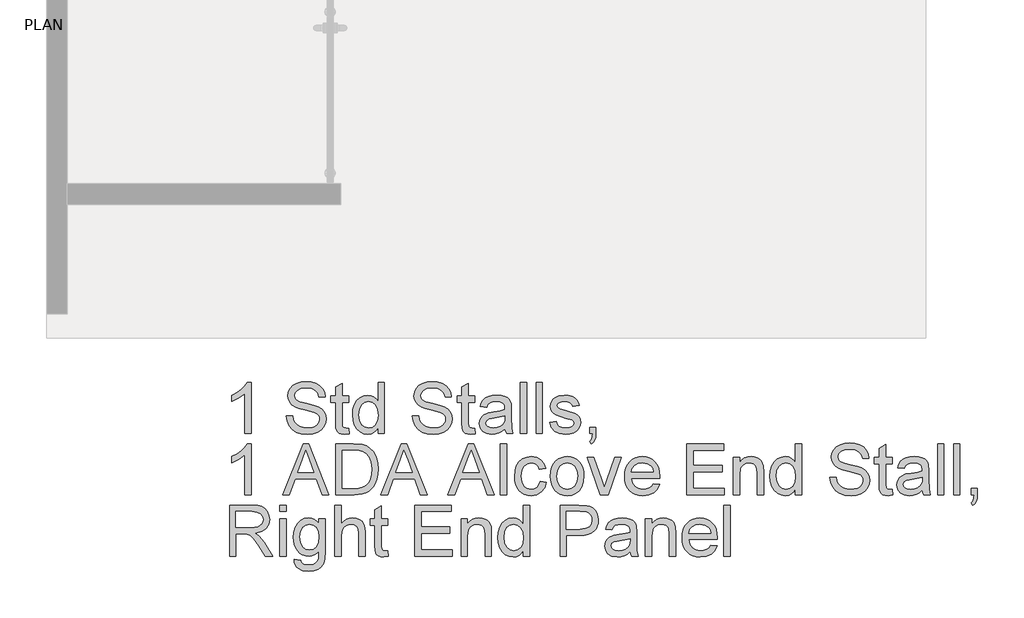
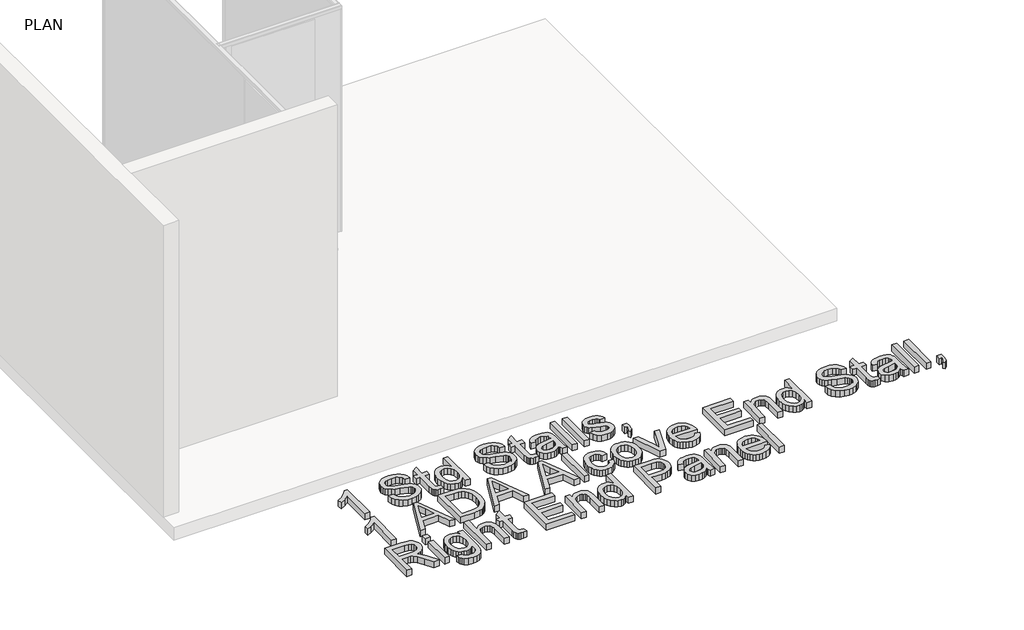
# One storey, part 16 of 21: 1 proxy.
"""IFC4 building model written with IfcOpenShell, lengths in millimetres."""

from ifc_helpers import new_model, si_unit, origin, origin_with_axes, place, context, project, spatial, polyline, outline, extrude, element, save

model = new_model("IFC4")

# Units and contexts
model_context = context("Model", 3, world=origin())
ifc_project = project(units=[si_unit("LENGTHUNIT", "METRE", prefix="MILLI")], contexts=[model_context])

# Site, building, storey
site = spatial("IfcSite", under=ifc_project)
building = spatial("IfcBuilding", under=site)
storey = spatial("IfcBuildingStorey", under=building, Name="PLAN", Elevation=0.0)

# Proxy
placement = place(None, origin())
element("IfcBuildingElementProxy", 1, Name="12\" Arial", ObjectType="12\" Arial", at=placement, inside=storey, context=model_context, shape_type="SweptSolid", body=[
    extrude(outline(polyline([(-21870.6570007, 20781.8395639), (-21908.7278874, 20781.8395639), (-21908.7278874, 21019.1877485), (-21944.7911298, 20993.4973357), (-21984.869661, 20974.2759993), (-21984.869661, 21010.2648844), (-21954.9687716, 21026.5305221), (-21929.0645818, 21045.8819836), (-21908.6442356, 21066.4603389), (-21895.1948769, 21086.4066579), (-21870.6570007, 21086.4066579), (-21870.6570007, 20781.8395639)])), origin_with_axes(), (0.0, 0.0, 1.0), 50.8),
    extrude(outline(polyline([(-21661.2671235, 20886.5345025), (-21623.1962368, 20886.5345025), (-21618.8277512, 20865.4077628), (-21610.9272986, 20848.4264371), (-21598.6025926, 20834.9491945), (-21580.9613468, 20824.3347041), (-21559.3977586, 20817.4473684), (-21535.3060255, 20815.1515898), (-21514.095634, 20816.8896894), (-21495.5249232, 20822.1039881), (-21480.4768847, 20830.3576373), (-21469.8345103, 20841.2137886), (-21463.5048536, 20853.6779144), (-21461.394968, 20866.7554871), (-21462.9750585, 20879.4984523), (-21467.7153301, 20890.5126127), (-21477.3445876, 20899.9095039), (-21493.5916359, 20907.8006619), (-21549.0249291, 20922.3374946), (-21585.4134842, 20931.9574574), (-21608.6965826, 20941.1126878), (-21627.6483741, 20953.9207156), (-21641.0791435, 20969.4427812), (-21649.0818373, 20987.3442773), (-21651.7494018, 21007.2905964), (-21648.449801, 21029.588462), (-21638.5509987, 21050.3805942), (-21622.313245, 21068.0032508), (-21599.9967901, 21080.7926893), (-21573.2096086, 21088.5723114), (-21543.5596748, 21091.1655188), (-21511.4373641, 21088.451481), (-21483.3303422, 21080.3093675), (-21460.2424314, 21066.9064821), (-21443.1774539, 21048.4101284), (-21432.3770705, 21025.9728431), (-21428.0829421, 21000.7471627), (-21466.1538289, 21000.7471627), (-21473.1434057, 21023.4632876), (-21487.7174171, 21039.8590503), (-21510.4893098, 21049.7857366), (-21542.0725308, 21053.094632), (-21574.3993238, 21049.8229152), (-21596.5763589, 21040.0077647), (-21609.402976, 21025.5638785), (-21613.6785151, 21008.4059544), (-21610.6484591, 20993.7761752), (-21601.5582914, 20982.0091482), (-21580.0690604, 20971.4876043), (-21539.3956716, 20960.7429888), (-21497.4210318, 20950.537463), (-21472.0280477, 20941.6331882), (-21450.3250398, 20927.8213382), (-21435.1840548, 20910.7749499), (-21426.2890747, 20890.6799164), (-21423.3240813, 20867.7221307), (-21426.7352179, 20844.2531392), (-21436.9686276, 20822.1783453), (-21453.6060513, 20803.1800805), (-21476.2292296, 20788.9406765), (-21503.4346704, 20780.0456964), (-21533.8188815, 20777.080703), (-21571.1183123, 20780.2780627), (-21601.8185416, 20789.8701416), (-21626.2727659, 20805.8941183), (-21644.8341822, 20828.3871715), (-21656.7499236, 20855.7878), (-21661.2671235, 20886.5345025)])), origin_with_axes(), (0.0, 0.0, 1.0), 50.8),
    extrude(outline(polyline([(-21290.0759776, 20813.5900886), (-21285.3171168, 20780.7242059), (-21313.7959246, 20777.080703), (-21332.0692067, 20778.6607935), (-21345.6951637, 20783.4010651), (-21355.3244212, 20790.7066601), (-21361.6076047, 20799.9827208), (-21365.0652145, 20815.9137511), (-21366.2177511, 20843.1842545), (-21366.2177511, 20967.4351368), (-21394.7709162, 20967.4351368), (-21394.7709162, 21005.5060236), (-21366.2177511, 21005.5060236), (-21366.2177511, 21059.8611373), (-21328.1468644, 21082.2426547), (-21328.1468644, 21005.5060236), (-21290.0759776, 21005.5060236), (-21290.0759776, 20967.4351368), (-21328.1468644, 20967.4351368), (-21328.1468644, 20844.2996125), (-21326.13922, 20824.6693115), (-21319.6329649, 20817.7169132), (-21306.6576334, 20815.1515898), (-21290.0759776, 20813.5900886)])), origin_with_axes(), (0.0, 0.0, 1.0), 50.8),
    extrude(outline(polyline([(-21113.9981264, 20781.8395639), (-21113.9981264, 20817.7540918), (-21125.38872, 20799.9594842), (-21139.1866281, 20787.2490502), (-21155.3918505, 20779.6227898), (-21174.0043873, 20777.080703), (-21198.6166208, 20780.7613845), (-21221.1468526, 20791.8034288), (-21240.2194746, 20809.43538), (-21254.4588785, 20832.8857822), (-21263.3259747, 20861.206581), (-21266.2816734, 20893.4497221), (-21263.5583409, 20925.2931933), (-21255.3883435, 20954.0508407), (-21241.7809758, 20978.0868058), (-21222.7455324, 20995.7652303), (-21199.7226841, 21006.6399709), (-21174.1531017, 21010.2648844), (-21155.526623, 21007.6716771), (-21139.056503, 20999.8920549), (-21125.0959386, 20987.9670189), (-21113.9981264, 20972.9375697), (-21113.9981264, 21086.4066579), (-21075.9272396, 21086.4066579), (-21075.9272396, 20781.8395639), (-21113.9981264, 20781.8395639)]), holes=[polyline([(-21228.2107866, 20893.5984365), (-21223.9166583, 20859.161758), (-21211.0342733, 20834.670355), (-21192.314848, 20820.0312811), (-21170.5095989, 20815.1515898), (-21148.7136444, 20819.8082095), (-21130.4682463, 20833.7780686), (-21118.1156564, 20857.3214172), (-21113.9981264, 20890.6985057), (-21118.1900136, 20927.1893019), (-21130.7656751, 20952.4893395), (-21149.4758057, 20967.2678331), (-21172.0711001, 20972.1939977), (-21194.0994208, 20967.4630208), (-21212.1496313, 20953.2700901), (-21224.1954978, 20928.8902229), (-21228.2107866, 20893.5984365)])]), origin_with_axes(), (0.0, 0.0, 1.0), 50.8),
    extrude(outline(polyline([(-20909.36711, 20886.5345025), (-20871.2962233, 20886.5345025), (-20866.9277377, 20865.4077628), (-20859.0272852, 20848.4264371), (-20846.7025791, 20834.9491945), (-20829.0613333, 20824.3347041), (-20807.4977451, 20817.4473684), (-20783.406012, 20815.1515898), (-20762.1956205, 20816.8896894), (-20743.6249097, 20822.1039881), (-20728.5768712, 20830.3576373), (-20717.9344968, 20841.2137886), (-20711.6048401, 20853.6779144), (-20709.4949546, 20866.7554871), (-20711.0750451, 20879.4984523), (-20715.8153166, 20890.5126127), (-20725.4445741, 20899.9095039), (-20741.6916225, 20907.8006619), (-20797.1249156, 20922.3374946), (-20833.5134707, 20931.9574574), (-20856.7965691, 20941.1126878), (-20875.7483607, 20953.9207156), (-20889.17913, 20969.4427812), (-20897.1818238, 20987.3442773), (-20899.8493883, 21007.2905964), (-20896.5497876, 21029.588462), (-20886.6509852, 21050.3805942), (-20870.4132315, 21068.0032508), (-20848.0967767, 21080.7926893), (-20821.3095951, 21088.5723114), (-20791.6596613, 21091.1655188), (-20759.5373506, 21088.451481), (-20731.4303288, 21080.3093675), (-20708.3424179, 21066.9064821), (-20691.2774404, 21048.4101284), (-20680.477057, 21025.9728431), (-20676.1829286, 21000.7471627), (-20714.2538154, 21000.7471627), (-20721.2433923, 21023.4632876), (-20735.8174036, 21039.8590503), (-20758.5892963, 21049.7857366), (-20790.1725173, 21053.094632), (-20822.4993103, 21049.8229152), (-20844.6763454, 21040.0077647), (-20857.5029625, 21025.5638785), (-20861.7785016, 21008.4059544), (-20858.7484457, 20993.7761752), (-20849.6582779, 20982.0091482), (-20828.1690469, 20971.4876043), (-20787.4956581, 20960.7429888), (-20745.5210183, 20950.537463), (-20720.1280343, 20941.6331882), (-20698.4250263, 20927.8213382), (-20683.2840413, 20910.7749499), (-20674.3890612, 20890.6799164), (-20671.4240678, 20867.7221307), (-20674.8352044, 20844.2531392), (-20685.0686141, 20822.1783453), (-20701.7060378, 20803.1800805), (-20724.3292161, 20788.9406765), (-20751.5346569, 20780.0456964), (-20781.918868, 20777.080703), (-20819.2182988, 20780.2780627), (-20849.9185281, 20789.8701416), (-20874.3727525, 20805.8941183), (-20892.9341687, 20828.3871715), (-20904.8499101, 20855.7878), (-20909.36711, 20886.5345025)])), origin_with_axes(), (0.0, 0.0, 1.0), 50.8),
    extrude(outline(polyline([(-20538.1759641, 20813.5900886), (-20533.4171033, 20780.7242059), (-20561.8959112, 20777.080703), (-20580.1691932, 20778.6607935), (-20593.7951503, 20783.4010651), (-20603.4244078, 20790.7066601), (-20609.7075912, 20799.9827208), (-20613.165201, 20815.9137511), (-20614.3177377, 20843.1842545), (-20614.3177377, 20967.4351368), (-20642.8709027, 20967.4351368), (-20642.8709027, 21005.5060236), (-20614.3177377, 21005.5060236), (-20614.3177377, 21059.8611373), (-20576.2468509, 21082.2426547), (-20576.2468509, 21005.5060236), (-20538.1759641, 21005.5060236), (-20538.1759641, 20967.4351368), (-20576.2468509, 20967.4351368), (-20576.2468509, 20844.2996125), (-20574.2392065, 20824.6693115), (-20567.7329514, 20817.7169132), (-20554.7576199, 20815.1515898), (-20538.1759641, 20813.5900886)])), origin_with_axes(), (0.0, 0.0, 1.0), 50.8),
    extrude(outline(polyline([(-20357.339252, 20810.3927289), (-20375.5288823, 20794.7963061), (-20394.2576022, 20784.5907803), (-20413.9529657, 20778.9582224), (-20435.0425268, 20777.080703), (-20466.858114, 20781.597903), (-20490.3271055, 20795.1495028), (-20504.7988757, 20815.7278581), (-20509.6227991, 20841.3253244), (-20507.8010477, 20857.1076403), (-20502.3357934, 20871.4399907), (-20493.9055458, 20883.7089288), (-20483.1888142, 20893.3010077), (-20456.5317578, 20905.7930174), (-20423.5915179, 20911.5185219), (-20384.6655233, 20917.5414552), (-20357.5623236, 20924.6053892), (-20357.339252, 20933.0821101), (-20359.9603434, 20950.0727305), (-20367.8236173, 20961.189132), (-20385.4090953, 20969.4427812), (-20409.9097929, 20972.1939977), (-20432.5887391, 20970.3629516), (-20448.4268229, 20964.8698134), (-20459.2272063, 20954.7107609), (-20466.7930515, 20938.8819718), (-20504.8639382, 20943.6408326), (-20498.255442, 20964.4608488), (-20488.3938183, 20980.819433), (-20474.3588966, 20993.330032), (-20455.2305068, 21002.6060928), (-20431.8358725, 21008.3501865), (-20405.0022177, 21010.2648844), (-20379.2653316, 21008.5732581), (-20358.8635747, 21003.4983792), (-20343.4809288, 20995.8674714), (-20332.8013758, 20986.5077588), (-20325.7188524, 20974.9359194), (-20321.1272953, 20960.6686316), (-20319.2683653, 20927.3566056), (-20319.2683653, 20879.9910688), (-20317.3350781, 20813.8503388), (-20309.7506436, 20781.8395639), (-20347.8215303, 20781.8395639), (-20353.9188208, 20795.0751456), (-20357.339252, 20810.3927289)]), holes=[polyline([(-20357.339252, 20886.5345025), (-20418.7582998, 20874.860422), (-20451.5126467, 20868.6887743), (-20466.3469083, 20858.6505522), (-20471.5519123, 20844.0021837), (-20468.717044, 20832.6812999), (-20460.2124392, 20823.4052391), (-20446.2239908, 20817.2150021), (-20426.9375919, 20815.1515898), (-20406.4893617, 20817.4287791), (-20388.4205619, 20824.2603469), (-20373.7721934, 20834.3264529), (-20363.5852569, 20846.3072569), (-20359.068057, 20858.6505522), (-20357.5623236, 20875.7527084), (-20357.339252, 20886.5345025)])]), origin_with_axes(), (0.0, 0.0, 1.0), 50.8),
    extrude(outline(polyline([(-20266.920896, 20781.8395639), (-20266.920896, 21086.4066579), (-20228.8500092, 21086.4066579), (-20228.8500092, 20781.8395639), (-20266.920896, 20781.8395639)])), origin_with_axes(), (0.0, 0.0, 1.0), 50.8),
    extrude(outline(polyline([(-20171.7436791, 20781.8395639), (-20171.7436791, 21086.4066579), (-20133.6727923, 21086.4066579), (-20133.6727923, 20781.8395639), (-20171.7436791, 20781.8395639)])), origin_with_axes(), (0.0, 0.0, 1.0), 50.8),
    extrude(outline(polyline([(-20090.8430447, 20848.4636157), (-20052.772158, 20853.2224765), (-20046.767814, 20836.9382496), (-20035.1495014, 20824.9667403), (-20017.8428629, 20817.6053774), (-19994.7735414, 20815.1515898), (-19971.9830594, 20817.4008951), (-19955.9590827, 20824.1488111), (-19946.4785396, 20833.926783), (-19943.3183585, 20845.2662561), (-19946.4971289, 20854.9698708), (-19956.0334399, 20862.3684122), (-19995.2196846, 20873.2245635), (-20052.5490864, 20891.8510423), (-20067.0580352, 20901.210755), (-20077.5702844, 20913.6005235), (-20083.955709, 20928.2303028), (-20086.0841839, 20944.3100474), (-20084.3739683, 20959.0606571), (-20079.2433214, 20972.6773195), (-20071.1569758, 20984.6209448), (-20060.579664, 20994.3524435), (-20036.3763952, 21005.6175594), (-20003.6220483, 21010.2648844), (-19978.8425112, 21008.3966598), (-19957.2975123, 21002.7919858), (-19939.9722845, 20993.9992468), (-19927.8520608, 20982.5668272), (-19919.8214831, 20967.6489138), (-19914.7651935, 20948.3996934), (-19952.8360802, 20943.6408326), (-19957.6414143, 20955.6216366), (-19967.1498414, 20964.6467418), (-19981.4543078, 20970.3071837), (-20000.6477603, 20972.1939977), (-20022.5087773, 20970.3908356), (-20037.0827886, 20964.9813492), (-20045.28067, 20957.1738431), (-20048.0132971, 20948.1766218), (-20043.4775079, 20937.0973989), (-20029.2752825, 20928.6950353), (-19996.483757, 20920.5901004), (-19940.6043207, 20902.670015), (-19925.8444164, 20894.1003476), (-19914.6536577, 20882.3704992), (-19907.5990183, 20867.4432912), (-19905.2474718, 20849.2815449), (-19908.0079829, 20830.5063517), (-19916.2895161, 20812.8465166), (-19929.7760534, 20797.6869423), (-19948.1515766, 20786.4125317), (-19970.347201, 20779.4136602), (-19995.2940418, 20777.080703), (-20033.6809467, 20781.5793137), (-20061.6950221, 20795.0751456), (-20080.395858, 20817.4194844), (-20090.8430447, 20848.4636157)])), origin_with_axes(), (0.0, 0.0, 1.0), 50.8),
    extrude(outline(polyline([(-19852.9000025, 20781.8395639), (-19852.9000025, 20819.9104506), (-19814.8291157, 20819.9104506), (-19814.8291157, 20781.8395639), (-19816.5393313, 20760.0621987), (-19821.6699782, 20742.9135693), (-19830.5184851, 20729.7616394), (-19843.3822808, 20719.9743729), (-19852.9000025, 20734.2509554), (-19844.6463532, 20741.1475858), (-19838.9208488, 20750.6838968), (-19833.9389163, 20781.8395639), (-19852.9000025, 20781.8395639)])), origin_with_axes(), (0.0, 0.0, 1.0), 50.8),
    extrude(outline(polyline([(-21870.6570007, 20415.7868995), (-21908.7278874, 20415.7868995), (-21908.7278874, 20653.1350842), (-21944.7911298, 20627.4446713), (-21984.869661, 20608.223335), (-21984.869661, 20644.2122201), (-21954.9687716, 20660.4778577), (-21929.0645818, 20679.8293192), (-21908.6442356, 20700.4076745), (-21895.1948769, 20720.3539936), (-21870.6570007, 20720.3539936), (-21870.6570007, 20415.7868995)])), origin_with_axes(), (0.0, 0.0, 1.0), 50.8),
    extrude(outline(polyline([(-21682.4589257, 20415.7868995), (-21560.8849026, 20720.3539936), (-21528.4651631, 20720.3539936), (-21406.8911399, 20415.7868995), (-21447.1183855, 20415.7868995), (-21481.9919126, 20510.9641164), (-21607.4325102, 20510.9641164), (-21642.2316801, 20415.7868995), (-21682.4589257, 20415.7868995)]), holes=[polyline([(-21593.4533565, 20549.0350032), (-21495.8967092, 20549.0350032), (-21523.3345162, 20623.9127043), (-21544.6750328, 20682.2831068), (-21563.636119, 20630.456138), (-21593.4533565, 20549.0350032)])]), origin_with_axes(), (0.0, 0.0, 1.0), 50.8),
    extrude(outline(polyline([(-21366.2177511, 20415.7868995), (-21366.2177511, 20720.3539936), (-21261.1510265, 20720.3539936), (-21206.7959128, 20715.9669188), (-21182.5182868, 20707.5087872), (-21162.032878, 20694.180259), (-21140.9712009, 20670.9808123), (-21125.9696357, 20642.1302185), (-21116.9910037, 20608.1861564), (-21113.9981264, 20569.706305), (-21116.0243601, 20537.0170206), (-21122.1030612, 20508.2500786), (-21131.3605327, 20483.7586756), (-21142.9230774, 20463.8960084), (-21156.2330164, 20448.2159337), (-21170.7326705, 20436.2723083), (-21187.3793888, 20427.4145068), (-21207.1305202, 20420.9919036), (-21256.0947369, 20415.7868995), (-21366.2177511, 20415.7868995)]), holes=[polyline([(-21328.1468644, 20453.8577863), (-21260.7792405, 20453.8577863), (-21232.9138796, 20455.2333945), (-21211.7778453, 20459.3602191), (-21195.8282257, 20465.9965993), (-21183.522109, 20474.9008741), (-21170.2958219, 20491.3802887), (-21160.359841, 20512.7115107), (-21154.1417201, 20538.9874864), (-21152.0690131, 20570.3011626), (-21156.1307752, 20611.7924806), (-21168.3160615, 20642.4276473), (-21186.3197987, 20663.4707351), (-21207.8369136, 20676.1858164), (-21229.7351093, 20680.7587842), (-21261.8202414, 20682.2831068), (-21328.1468644, 20682.2831068), (-21328.1468644, 20453.8577863)])]), origin_with_axes(), (0.0, 0.0, 1.0), 50.8),
    extrude(outline(polyline([(-21097.1190418, 20415.7868995), (-20975.5450187, 20720.3539936), (-20943.1252792, 20720.3539936), (-20821.551256, 20415.7868995), (-20861.7785016, 20415.7868995), (-20896.6520287, 20510.9641164), (-21022.0926263, 20510.9641164), (-21056.8917962, 20415.7868995), (-21097.1190418, 20415.7868995)]), holes=[polyline([(-21008.1134726, 20549.0350032), (-20910.5568252, 20549.0350032), (-20937.9946323, 20623.9127043), (-20959.3351489, 20682.2831068), (-20978.2962351, 20630.456138), (-21008.1134726, 20549.0350032)])]), origin_with_axes(), (0.0, 0.0, 1.0), 50.8),
    extrude(outline(polyline([(-20697.3747308, 20415.7868995), (-20575.8007077, 20720.3539936), (-20543.3809682, 20720.3539936), (-20421.806945, 20415.7868995), (-20462.0341906, 20415.7868995), (-20496.9077178, 20510.9641164), (-20622.3483153, 20510.9641164), (-20657.1474853, 20415.7868995), (-20697.3747308, 20415.7868995)]), holes=[polyline([(-20608.3691616, 20549.0350032), (-20510.8125143, 20549.0350032), (-20538.2503213, 20623.9127043), (-20559.5908379, 20682.2831068), (-20578.5519241, 20630.456138), (-20608.3691616, 20549.0350032)])]), origin_with_axes(), (0.0, 0.0, 1.0), 50.8),
    extrude(outline(polyline([(-20385.8924171, 20415.7868995), (-20385.8924171, 20720.3539936), (-20347.8215303, 20720.3539936), (-20347.8215303, 20415.7868995), (-20385.8924171, 20415.7868995)])), origin_with_axes(), (0.0, 0.0, 1.0), 50.8),
    extrude(outline(polyline([(-20147.9493749, 20496.6875339), (-20109.8784881, 20491.9286731), (-20120.4929785, 20458.0682628), (-20140.4392976, 20432.4800911), (-20167.8399261, 20416.3910518), (-20200.8173446, 20411.0280387), (-20222.1694795, 20412.898587), (-20241.314135, 20418.510232), (-20258.2513111, 20427.8629737), (-20272.9810078, 20440.956812), (-20284.9037202, 20457.5454387), (-20293.4199434, 20477.3825457), (-20298.5296773, 20500.4681328), (-20300.2329219, 20526.8022002), (-20297.3236964, 20560.6811998), (-20288.59602, 20590.0429994), (-20273.9104729, 20613.7536518), (-20253.1276353, 20630.6792096), (-20228.2644463, 20640.8289675), (-20201.337845, 20644.2122201), (-20169.169061, 20639.564895), (-20143.4507642, 20625.6229199), (-20125.0008838, 20603.1298667), (-20114.637349, 20572.8293074), (-20152.7082357, 20568.0704466), (-20159.6141607, 20584.6799863), (-20170.3680709, 20596.586433), (-20184.3751086, 20603.7526083), (-20201.0404162, 20606.1413333), (-20225.6433549, 20601.4382404), (-20245.1714148, 20587.3289616), (-20257.91438, 20563.0513355), (-20262.1620351, 20527.843201), (-20258.0073266, 20492.1610393), (-20245.5432008, 20467.7997614), (-20226.3683377, 20453.7741344), (-20202.081417, 20449.0989255), (-20182.3674641, 20452.0174456), (-20166.2040676, 20460.773006), (-20154.4463353, 20475.5886782), (-20147.9493749, 20496.6875339)])), origin_with_axes(), (0.0, 0.0, 1.0), 50.8),
    extrude(outline(polyline([(-20086.0841839, 20527.6201294), (-20084.0254189, 20556.5869064), (-20077.8491239, 20581.5476892), (-20067.5552989, 20602.5024778), (-20053.143944, 20619.4512723), (-20038.6349952, 20630.2841869), (-20022.6203131, 20638.0219831), (-20005.0998977, 20642.6646608), (-19986.0737489, 20644.2122201), (-19965.0701634, 20642.3277298), (-19946.0788696, 20636.6742589), (-19929.0998676, 20627.2518073), (-19914.1331573, 20614.0603752), (-19901.9176634, 20597.5461057), (-19893.1923106, 20578.1551419), (-19887.957099, 20555.887484), (-19886.2120284, 20530.7431318), (-19889.2978522, 20492.2818698), (-19898.5553237, 20463.003722), (-19913.714898, 20441.0776424), (-19934.5070303, 20424.672585), (-19959.2029155, 20414.4391753), (-19986.0737489, 20411.0280387), (-20007.3840579, 20412.905558), (-20026.5519501, 20418.538116), (-20043.5774254, 20427.9257126), (-20058.4604838, 20441.0683478), (-20070.5458526, 20457.74295), (-20079.1782589, 20477.7264477), (-20084.3577026, 20501.0188408), (-20086.0841839, 20527.6201294)]), holes=[polyline([(-20048.0132971, 20527.6944866), (-20043.607633, 20493.2392187), (-20030.3906406, 20468.6920478), (-20010.5000894, 20453.997206), (-19986.0737489, 20449.0989255), (-19961.7589443, 20454.02509), (-19941.9055717, 20468.8035836), (-19928.6885793, 20493.6760673), (-19924.2829152, 20528.8842018), (-19928.7164632, 20562.3356475), (-19942.0171075, 20586.5482109), (-19961.8983641, 20601.2430527), (-19986.0737489, 20606.1413333), (-20010.5000894, 20601.261642), (-20030.3906406, 20586.6225681), (-20043.607633, 20562.1311652), (-20048.0132971, 20527.6944866)])]), origin_with_axes(), (0.0, 0.0, 1.0), 50.8),
    extrude(outline(polyline([(-19788.5066667, 20415.7868995), (-19867.176585, 20639.4533592), (-19826.8749822, 20639.4533592), (-19779.2120166, 20505.4616836), (-19764.8610769, 20460.40122), (-19750.8075659, 20502.9335388), (-19702.8471715, 20639.4533592), (-19662.5455687, 20639.4533592), (-19740.2488434, 20415.7868995), (-19788.5066667, 20415.7868995)])), origin_with_axes(), (0.0, 0.0, 1.0), 50.8),
    extrude(outline(polyline([(-19472.6372781, 20482.4109514), (-19435.3099634, 20477.6520905), (-19448.759322, 20449.5264794), (-19470.2206691, 20428.5019809), (-19499.2106827, 20415.3965242), (-19535.2460411, 20411.0280387), (-19558.8683943, 20412.912529), (-19579.9161294, 20418.5659999), (-19598.3892465, 20427.9884514), (-19614.2877454, 20441.1798836), (-19627.0725366, 20457.7731576), (-19636.2045303, 20477.401135), (-19641.6837266, 20500.0638155), (-19643.5101253, 20525.7611994), (-19641.6651373, 20552.3299566), (-19636.1301731, 20575.7478275), (-19626.9052329, 20596.0148121), (-19613.9903166, 20613.1309102), (-19598.1336436, 20626.7289833), (-19580.0834331, 20636.4418926), (-19559.8396852, 20642.2696382), (-19537.4023999, 20644.2122201), (-19515.6877736, 20642.2742855), (-19496.0505017, 20636.4604819), (-19478.490584, 20626.7708092), (-19463.0080206, 20613.2052674), (-19450.3696202, 20596.1263479), (-19441.3421913, 20575.8965419), (-19435.9257339, 20552.5158497), (-19434.1202481, 20525.984271), (-19434.3433197, 20515.7229773), (-19605.4392386, 20515.7229773), (-19598.8493316, 20487.2255801), (-19583.5410429, 20466.2754388), (-19561.4476597, 20453.3930538), (-19534.5024691, 20449.0989255), (-19514.2401319, 20451.0879806), (-19497.1751543, 20457.0551459), (-19483.3075364, 20467.3722075), (-19472.6372781, 20482.4109514)]), holes=[polyline([(-19605.4392386, 20553.793864), (-19472.1911349, 20553.793864), (-19477.340371, 20573.9074868), (-19487.434361, 20588.2956052), (-19509.6299855, 20601.6799013), (-19537.5511143, 20606.1413333), (-19563.2136432, 20602.5814823), (-19584.4333294, 20591.9019294), (-19599.183939, 20575.2552111), (-19605.4392386, 20553.793864)])]), origin_with_axes(), (0.0, 0.0, 1.0), 50.8),
    extrude(outline(polyline([(-19272.3189794, 20415.7868995), (-19272.3189794, 20720.3539936), (-19053.4113806, 20720.3539936), (-19053.4113806, 20682.2831068), (-19234.2480927, 20682.2831068), (-19234.2480927, 20591.8647508), (-19062.9291022, 20591.8647508), (-19062.9291022, 20553.793864), (-19234.2480927, 20553.793864), (-19234.2480927, 20453.8577863), (-19048.6525197, 20453.8577863), (-19048.6525197, 20415.7868995), (-19272.3189794, 20415.7868995)])), origin_with_axes(), (0.0, 0.0, 1.0), 50.8),
    extrude(outline(polyline([(-18996.3050504, 20415.7868995), (-18996.3050504, 20639.4533592), (-18958.2341637, 20639.4533592), (-18958.2341637, 20608.223335), (-18945.0078766, 20623.9684722), (-18929.1233196, 20635.2149988), (-18910.5804927, 20641.9629148), (-18889.3793958, 20644.2122201), (-18870.6134973, 20642.3997633), (-18853.4276893, 20636.962393), (-18839.0953388, 20628.5786186), (-18828.889813, 20617.9269496), (-18817.4759827, 20589.9314636), (-18815.4683383, 20553.1246492), (-18815.4683383, 20415.7868995), (-18853.5392251, 20415.7868995), (-18853.5392251, 20547.9940024), (-18857.9262999, 20581.6778143), (-18863.9957064, 20591.7067417), (-18873.4297763, 20599.4863639), (-18885.522116, 20604.477591), (-18899.5663323, 20606.1413333), (-18921.8641979, 20602.404884), (-18940.8717573, 20591.195536), (-18948.4678101, 20582.044953), (-18953.8935621, 20569.5390013), (-18958.2341637, 20534.4609919), (-18958.2341637, 20415.7868995), (-18996.3050504, 20415.7868995)])), origin_with_axes(), (0.0, 0.0, 1.0), 50.8),
    extrude(outline(polyline([(-18625.1139045, 20415.7868995), (-18625.1139045, 20451.7014275), (-18636.5044982, 20433.9068199), (-18650.3024063, 20421.1963859), (-18666.5076287, 20413.5701255), (-18685.1201655, 20411.0280387), (-18709.7323989, 20414.7087201), (-18732.2626307, 20425.7507644), (-18751.3352527, 20443.3827156), (-18765.5746566, 20466.8331178), (-18774.4417528, 20495.1539166), (-18777.3974516, 20527.3970578), (-18774.6741191, 20559.240529), (-18766.5041217, 20587.9981764), (-18752.8967539, 20612.0341415), (-18733.8613105, 20629.712566), (-18710.8384623, 20640.5873066), (-18685.2688799, 20644.2122201), (-18666.6424011, 20641.6190127), (-18650.1722812, 20633.8393906), (-18636.2117167, 20621.9143545), (-18625.1139045, 20606.8849053), (-18625.1139045, 20720.3539936), (-18587.0430178, 20720.3539936), (-18587.0430178, 20415.7868995), (-18625.1139045, 20415.7868995)]), holes=[polyline([(-18739.3265648, 20527.5457722), (-18735.0324365, 20493.1090936), (-18722.1500514, 20468.6176906), (-18703.4306262, 20453.9786167), (-18681.6253771, 20449.0989255), (-18659.8294226, 20453.7555451), (-18641.5840245, 20467.7254042), (-18629.2314345, 20491.2687529), (-18625.1139045, 20524.6458414), (-18629.3057917, 20561.1366376), (-18641.8814533, 20586.4366751), (-18660.5915839, 20601.2151688), (-18683.1868783, 20606.1413333), (-18705.215199, 20601.4103564), (-18723.2654094, 20587.2174258), (-18735.311276, 20562.8375586), (-18739.3265648, 20527.5457722)])]), origin_with_axes(), (0.0, 0.0, 1.0), 50.8),
    extrude(outline(polyline([(-18420.4828882, 20520.4818381), (-18382.4120014, 20520.4818381), (-18378.0435159, 20499.3550985), (-18370.1430633, 20482.3737728), (-18357.8183573, 20468.8965301), (-18340.1771114, 20458.2820397), (-18318.6135232, 20451.394704), (-18294.5217902, 20449.0989255), (-18273.3113987, 20450.837025), (-18254.7406878, 20456.0513237), (-18239.6926493, 20464.304973), (-18229.050275, 20475.1611243), (-18222.7206183, 20487.6252501), (-18220.6107327, 20500.7028227), (-18222.1908232, 20513.445788), (-18226.9310948, 20524.4599484), (-18236.5603523, 20533.8568396), (-18252.8074006, 20541.7479975), (-18308.2406937, 20556.2848303), (-18344.6292488, 20565.9047931), (-18367.9123473, 20575.0600234), (-18386.8641388, 20587.8680513), (-18400.2949082, 20603.3901169), (-18408.2976019, 20621.291613), (-18410.9651665, 20641.2379321), (-18407.6655657, 20663.5357976), (-18397.7667634, 20684.3279299), (-18381.5290097, 20701.9505864), (-18359.2125548, 20714.740025), (-18332.4253733, 20722.5196471), (-18302.7754395, 20725.1128545), (-18270.6531288, 20722.3988166), (-18242.5461069, 20714.2567031), (-18219.4581961, 20700.8538177), (-18202.3932185, 20682.357464), (-18191.5928351, 20659.9201787), (-18187.2987068, 20634.6944984), (-18225.3695936, 20634.6944984), (-18232.3591704, 20657.4106232), (-18246.9331818, 20673.806386), (-18269.7050745, 20683.7330723), (-18301.2882955, 20687.0419677), (-18333.6150885, 20683.7702509), (-18355.7921236, 20673.9551004), (-18368.6187407, 20659.5112141), (-18372.8942797, 20642.3532901), (-18369.8642238, 20627.7235108), (-18360.774056, 20615.9564838), (-18339.284825, 20605.4349399), (-18298.6114362, 20594.6903244), (-18256.6367965, 20584.4847986), (-18231.2438124, 20575.5805238), (-18209.5408045, 20561.7686738), (-18194.3998195, 20544.7222856), (-18185.5048393, 20524.6272521), (-18182.539846, 20501.6694663), (-18185.9509825, 20478.2004749), (-18196.1843923, 20456.1256809), (-18212.8218159, 20437.1274161), (-18235.4449943, 20422.8880122), (-18262.6504351, 20413.9930321), (-18293.0346462, 20411.0280387), (-18330.334077, 20414.2253983), (-18361.0343062, 20423.8174772), (-18385.4885306, 20439.841454), (-18404.0499468, 20462.3345072), (-18415.9656883, 20489.7351356), (-18420.4828882, 20520.4818381)])), origin_with_axes(), (0.0, 0.0, 1.0), 50.8),
    extrude(outline(polyline([(-18049.2917423, 20447.5374242), (-18044.5328815, 20414.6715415), (-18073.0116893, 20411.0280387), (-18091.2849714, 20412.6081292), (-18104.9109284, 20417.3484008), (-18114.5401859, 20424.6539957), (-18120.8233694, 20433.9300565), (-18124.2809792, 20449.8610868), (-18125.4335158, 20477.1315901), (-18125.4335158, 20601.3824725), (-18153.9866809, 20601.3824725), (-18153.9866809, 20639.4533592), (-18125.4335158, 20639.4533592), (-18125.4335158, 20693.808473), (-18087.3626291, 20716.1899904), (-18087.3626291, 20639.4533592), (-18049.2917423, 20639.4533592), (-18049.2917423, 20601.3824725), (-18087.3626291, 20601.3824725), (-18087.3626291, 20478.2469481), (-18085.3549846, 20458.6166471), (-18078.8487296, 20451.6642489), (-18065.8733981, 20449.0989255), (-18049.2917423, 20447.5374242)])), origin_with_axes(), (0.0, 0.0, 1.0), 50.8),
    extrude(outline(polyline([(-17868.4550302, 20444.3400646), (-17886.6446604, 20428.7436418), (-17905.3733803, 20418.538116), (-17925.0687439, 20412.905558), (-17946.1583049, 20411.0280387), (-17977.9738922, 20415.5452386), (-18001.4428836, 20429.0968385), (-18015.9146538, 20449.6751938), (-18020.7385772, 20475.2726601), (-18018.9168258, 20491.0549759), (-18013.4515716, 20505.3873264), (-18005.0213239, 20517.6562645), (-17994.3045924, 20527.2483434), (-17967.6475359, 20539.7403531), (-17934.707296, 20545.4658576), (-17895.7813015, 20551.4887908), (-17868.6781018, 20558.5527249), (-17868.4550302, 20567.0294458), (-17871.0761215, 20584.0200661), (-17878.9393955, 20595.1364676), (-17896.5248735, 20603.3901169), (-17921.0255711, 20606.1413333), (-17943.7045173, 20604.3102873), (-17959.5426011, 20598.8171491), (-17970.3429845, 20588.6580965), (-17977.9088296, 20572.8293074), (-18015.9797164, 20577.5881683), (-18009.3712202, 20598.4081845), (-17999.5095964, 20614.7667686), (-17985.4746748, 20627.2773676), (-17966.3462849, 20636.5534284), (-17942.9516506, 20642.2975222), (-17916.1179958, 20644.2122201), (-17890.3811098, 20642.5205938), (-17869.9793528, 20637.4457148), (-17854.5967069, 20629.8148071), (-17843.917154, 20620.4550945), (-17836.8346306, 20608.8832551), (-17832.2430735, 20594.6159672), (-17830.3841434, 20561.3039413), (-17830.3841434, 20513.9384045), (-17828.4508562, 20447.7976744), (-17820.8664217, 20415.7868995), (-17858.9373085, 20415.7868995), (-17865.034599, 20429.0224813), (-17868.4550302, 20444.3400646)]), holes=[polyline([(-17868.4550302, 20520.4818381), (-17929.874078, 20508.8077576), (-17962.6284249, 20502.63611), (-17977.4626864, 20492.5978879), (-17982.6676905, 20477.9495193), (-17979.8328222, 20466.6286355), (-17971.3282174, 20457.3525747), (-17957.339769, 20451.1623378), (-17938.0533701, 20449.0989255), (-17917.6051399, 20451.3761147), (-17899.5363401, 20458.2076825), (-17884.8879716, 20468.2737886), (-17874.7010351, 20480.2545925), (-17870.1838351, 20492.5978879), (-17868.6781018, 20509.700044), (-17868.4550302, 20520.4818381)])]), origin_with_axes(), (0.0, 0.0, 1.0), 50.8),
    extrude(outline(polyline([(-17778.0366741, 20415.7868995), (-17778.0366741, 20720.3539936), (-17739.9657874, 20720.3539936), (-17739.9657874, 20415.7868995), (-17778.0366741, 20415.7868995)])), origin_with_axes(), (0.0, 0.0, 1.0), 50.8),
    extrude(outline(polyline([(-17682.8594572, 20415.7868995), (-17682.8594572, 20720.3539936), (-17644.7885705, 20720.3539936), (-17644.7885705, 20415.7868995), (-17682.8594572, 20415.7868995)])), origin_with_axes(), (0.0, 0.0, 1.0), 50.8),
    extrude(outline(polyline([(-17578.1645187, 20415.7868995), (-17578.1645187, 20453.8577863), (-17540.0936319, 20453.8577863), (-17540.0936319, 20415.7868995), (-17541.8038475, 20394.0095344), (-17546.9344944, 20376.860905), (-17555.7830013, 20363.7089751), (-17568.646797, 20353.9217086), (-17578.1645187, 20368.1982911), (-17569.9108694, 20375.0949215), (-17564.1853649, 20384.6312324), (-17559.2034325, 20415.7868995), (-17578.1645187, 20415.7868995)])), origin_with_axes(), (0.0, 0.0, 1.0), 50.8),
    extrude(outline(polyline([(-21999.1462435, 20049.7342352), (-21999.1462435, 20354.3013293), (-21867.9057843, 20354.3013293), (-21832.6325872, 20352.2472116), (-21806.9700583, 20346.0848586), (-21788.2134544, 20334.7082069), (-21773.6580324, 20317.0111931), (-21764.316909, 20295.0665243), (-21761.2032013, 20270.9469073), (-21766.3617321, 20240.9437768), (-21781.8373245, 20216.0712932), (-21793.5602019, 20205.9354772), (-21808.0947109, 20197.8351897), (-21845.5986241, 20187.7411997), (-21823.9606786, 20171.4569727), (-21793.1024404, 20132.270728), (-21742.3164723, 20049.7342352), (-21786.5590067, 20049.7342352), (-21826.1913947, 20112.8634986), (-21854.8189169, 20154.6522454), (-21874.9325397, 20174.3940822), (-21893.0385181, 20181.6439092), (-21915.1226067, 20182.9823389), (-21961.0753567, 20182.9823389), (-21961.0753567, 20049.7342352), (-21999.1462435, 20049.7342352)]), holes=[polyline([(-21961.0753567, 20221.0532256), (-21875.8620047, 20221.0532256), (-21851.3891911, 20222.4009499), (-21832.4002209, 20226.4441227), (-21818.1050491, 20233.4522888), (-21807.7136303, 20243.6949932), (-21801.3839736, 20256.0847618), (-21799.274088, 20269.5341205), (-21803.2986715, 20288.1048313), (-21815.372422, 20303.069218), (-21836.1459649, 20312.9401364), (-21866.2699258, 20316.2304425), (-21961.0753567, 20316.2304425), (-21961.0753567, 20221.0532256)])]), origin_with_axes(), (0.0, 0.0, 1.0), 50.8),
    extrude(outline(polyline([(-21699.3380103, 20316.2304425), (-21699.3380103, 20354.3013293), (-21661.2671235, 20354.3013293), (-21661.2671235, 20316.2304425), (-21699.3380103, 20316.2304425)])), origin_with_axes(), (0.0, 0.0, 1.0), 50.8),
    extrude(outline(polyline([(-21699.3380103, 20049.7342352), (-21699.3380103, 20273.4006949), (-21661.2671235, 20273.4006949), (-21661.2671235, 20049.7342352), (-21699.3380103, 20049.7342352)])), origin_with_axes(), (0.0, 0.0, 1.0), 50.8),
    extrude(outline(polyline([(-21613.6785151, 20030.6987918), (-21575.6076283, 20025.939931), (-21571.4064465, 20014.0427789), (-21563.264333, 20005.8634868), (-21547.2589455, 19999.5059461), (-21526.3088042, 19997.3867659), (-21503.9644654, 19999.7847856), (-21487.3456311, 20006.9788448), (-21475.820265, 20018.5042109), (-21468.7563309, 20033.8961514), (-21466.1538289, 20078.2874003), (-21478.8224369, 20065.7953906), (-21492.9595997, 20056.8725265), (-21508.5653172, 20051.518808), (-21525.6395894, 20049.7342352), (-21546.5130499, 20051.8115895), (-21564.8908968, 20058.0436524), (-21580.7731301, 20068.4304239), (-21594.1597499, 20082.9719039), (-21604.7812113, 20100.4179621), (-21612.3679694, 20119.5184681), (-21616.9200243, 20140.2734217), (-21618.4373759, 20162.6828231), (-21615.7140434, 20193.4202309), (-21607.544046, 20221.6852618), (-21594.2155178, 20245.6375751), (-21576.0165929, 20263.43683), (-21553.570013, 20274.4788743), (-21527.4985195, 20278.1595558), (-21509.6946172, 20276.0775541), (-21493.535868, 20269.8315493), (-21479.0222719, 20259.4215412), (-21466.1538289, 20244.8475298), (-21466.1538289, 20273.4006949), (-21428.0829421, 20273.4006949), (-21428.0829421, 20080.2950447), (-21430.6854441, 20035.7086082), (-21438.4929502, 20006.3468086), (-21451.9423089, 19986.8745167), (-21471.4703687, 19971.9566033), (-21496.6495758, 19962.4760602), (-21527.0523763, 19959.3158791), (-21562.4742877, 19963.7680165), (-21590.3675326, 19977.1244287), (-21600.8728109, 19987.1510325), (-21608.2597341, 19999.4222943), (-21612.5283021, 20013.938214), (-21613.6785151, 20030.6987918)]), holes=[polyline([(-21580.3664892, 20165.2853251), (-21576.3047271, 20130.3653247), (-21564.1194408, 20106.3572435), (-21545.7996855, 20092.4431524), (-21523.3345162, 20087.805122), (-21501.0366507, 20092.4152684), (-21482.6239488, 20106.2457077), (-21470.2713589, 20129.9470655), (-21466.1538289, 20164.1699671), (-21470.3921893, 20197.1752695), (-21483.1072706, 20220.9416898), (-21501.7895173, 20235.3019242), (-21523.9293738, 20240.088669), (-21545.6695604, 20235.3762814), (-21563.8963692, 20221.2391186), (-21576.2489592, 20197.825895), (-21580.3664892, 20165.2853251)])]), origin_with_axes(), (0.0, 0.0, 1.0), 50.8),
    extrude(outline(polyline([(-21370.976612, 20049.7342352), (-21370.976612, 20354.3013293), (-21332.9057252, 20354.3013293), (-21332.9057252, 20242.319385), (-21318.9219242, 20257.9994597), (-21303.2186128, 20269.1995131), (-21285.7957913, 20275.9195451), (-21266.6534594, 20278.1595558), (-21243.6584951, 20275.7150628), (-21223.898069, 20268.3815839), (-21208.3388248, 20256.7353873), (-21197.947406, 20241.3527414), (-21192.0917764, 20220.2167071), (-21190.1398999, 20191.3103453), (-21190.1398999, 20049.7342352), (-21228.2107866, 20049.7342352), (-21228.2107866, 20187.3694137), (-21231.2408426, 20211.2008965), (-21240.3310104, 20227.5223021), (-21254.9793789, 20236.9470773), (-21274.6840371, 20240.088669), (-21290.7730764, 20237.9694888), (-21305.8768828, 20231.6119481), (-21318.3874818, 20221.6294939), (-21326.696899, 20208.6355731), (-21331.3535187, 20191.3661132), (-21332.9057252, 20168.5570419), (-21332.9057252, 20049.7342352), (-21370.976612, 20049.7342352)])), origin_with_axes(), (0.0, 0.0, 1.0), 50.8),
    extrude(outline(polyline([(-21056.8917962, 20081.4847599), (-21052.1329354, 20048.6188772), (-21080.6117432, 20044.9753744), (-21098.8850253, 20046.5554649), (-21112.5109823, 20051.2957364), (-21122.1402398, 20058.6013314), (-21128.4234233, 20067.8773922), (-21131.8810331, 20083.8084224), (-21133.0335697, 20111.0789258), (-21133.0335697, 20235.3298081), (-21161.5867348, 20235.3298081), (-21161.5867348, 20273.4006949), (-21133.0335697, 20273.4006949), (-21133.0335697, 20327.7558086), (-21094.962683, 20350.137326), (-21094.962683, 20273.4006949), (-21056.8917962, 20273.4006949), (-21056.8917962, 20235.3298081), (-21094.962683, 20235.3298081), (-21094.962683, 20112.1942838), (-21092.9550386, 20092.5639828), (-21086.4487835, 20085.6115845), (-21073.473452, 20083.0462611), (-21056.8917962, 20081.4847599)])), origin_with_axes(), (0.0, 0.0, 1.0), 50.8),
    extrude(outline(polyline([(-20895.0905275, 20049.7342352), (-20895.0905275, 20354.3013293), (-20676.1829286, 20354.3013293), (-20676.1829286, 20316.2304425), (-20857.0196407, 20316.2304425), (-20857.0196407, 20225.8120865), (-20685.7006503, 20225.8120865), (-20685.7006503, 20187.7411997), (-20857.0196407, 20187.7411997), (-20857.0196407, 20087.805122), (-20671.4240678, 20087.805122), (-20671.4240678, 20049.7342352), (-20895.0905275, 20049.7342352)])), origin_with_axes(), (0.0, 0.0, 1.0), 50.8),
    extrude(outline(polyline([(-20619.0765985, 20049.7342352), (-20619.0765985, 20273.4006949), (-20581.0057117, 20273.4006949), (-20581.0057117, 20242.1706706), (-20567.7794247, 20257.9158079), (-20551.8948677, 20269.1623345), (-20533.3520407, 20275.9102504), (-20512.1509439, 20278.1595558), (-20493.3850454, 20276.347099), (-20476.1992374, 20270.9097287), (-20461.8668869, 20262.5259543), (-20451.6613611, 20251.8742853), (-20440.2475308, 20223.8787992), (-20438.2398864, 20187.0719849), (-20438.2398864, 20049.7342352), (-20476.3107732, 20049.7342352), (-20476.3107732, 20181.941338), (-20480.697848, 20215.62515), (-20486.7672545, 20225.6540774), (-20496.2013243, 20233.4336995), (-20508.2936641, 20238.4249266), (-20522.3378804, 20240.088669), (-20544.6357459, 20236.3522197), (-20563.6433054, 20225.1428717), (-20571.2393582, 20215.9922886), (-20576.6651102, 20203.4863369), (-20581.0057117, 20168.4083275), (-20581.0057117, 20049.7342352), (-20619.0765985, 20049.7342352)])), origin_with_axes(), (0.0, 0.0, 1.0), 50.8),
    extrude(outline(polyline([(-20247.8854526, 20049.7342352), (-20247.8854526, 20085.6487631), (-20259.2760463, 20067.8541555), (-20273.0739543, 20055.1437216), (-20289.2791768, 20047.5174612), (-20307.8917136, 20044.9753744), (-20332.503947, 20048.6560558), (-20355.0341788, 20059.6981001), (-20374.1068008, 20077.3300513), (-20388.3462047, 20100.7804535), (-20397.2133009, 20129.1012523), (-20400.1689996, 20161.3443935), (-20397.4456672, 20193.1878647), (-20389.2756697, 20221.945512), (-20375.668302, 20245.9814771), (-20356.6328586, 20263.6599016), (-20333.6100104, 20274.5346422), (-20308.040428, 20278.1595558), (-20289.4139492, 20275.5663484), (-20272.9438292, 20267.7867263), (-20258.9832648, 20255.8616902), (-20247.8854526, 20240.832241), (-20247.8854526, 20354.3013293), (-20209.8145658, 20354.3013293), (-20209.8145658, 20049.7342352), (-20247.8854526, 20049.7342352)]), holes=[polyline([(-20362.0981129, 20161.4931079), (-20357.8039845, 20127.0564293), (-20344.9215995, 20102.5650263), (-20326.2021742, 20087.9259524), (-20304.3969251, 20083.0462611), (-20282.6009707, 20087.7028808), (-20264.3555726, 20101.6727399), (-20252.0029826, 20125.2160886), (-20247.8854526, 20158.593177), (-20252.0773398, 20195.0839733), (-20264.6530014, 20220.3840108), (-20283.363132, 20235.1625044), (-20305.9584264, 20240.088669), (-20327.9867471, 20235.3576921), (-20346.0369575, 20221.1647614), (-20358.082824, 20196.7848942), (-20362.0981129, 20161.4931079)])]), origin_with_axes(), (0.0, 0.0, 1.0), 50.8),
    extrude(outline(polyline([(-20028.9778537, 20049.7342352), (-20028.9778537, 20354.3013293), (-19916.1036231, 20354.3013293), (-19870.5970163, 20351.4013984), (-19850.3067951, 20345.9826174), (-19833.6043089, 20337.1619945), (-19820.1549502, 20324.5398597), (-19809.6241117, 20307.716543), (-19802.8204278, 20287.8724651), (-19800.5525332, 20266.1880464), (-19802.0838268, 20247.4918578), (-19806.6777076, 20230.2921078), (-19814.3341756, 20214.5887965), (-19825.0532308, 20200.3819238), (-19839.7689856, 20188.6056022), (-19859.4155522, 20180.1939438), (-19883.9929307, 20175.1469488), (-19913.5011211, 20173.4646172), (-19990.906967, 20173.4646172), (-19990.906967, 20049.7342352), (-20028.9778537, 20049.7342352)]), holes=[polyline([(-19990.906967, 20211.5355039), (-19911.270405, 20211.5355039), (-19877.5122359, 20215.0302924), (-19855.2050757, 20225.5146577), (-19842.7688339, 20242.3379743), (-19838.62342, 20264.8496168), (-19841.0679129, 20281.951773), (-19848.4013918, 20296.3770699), (-19859.712981, 20307.2332212), (-19874.0918047, 20313.6279405), (-19912.1626914, 20316.2304425), (-19990.906967, 20316.2304425), (-19990.906967, 20211.5355039)])]), origin_with_axes(), (0.0, 0.0, 1.0), 50.8),
    extrude(outline(polyline([(-19610.1980994, 20078.2874003), (-19628.3877296, 20062.6909774), (-19647.1164495, 20052.4854516), (-19666.8118131, 20046.8528937), (-19687.9013741, 20044.9753744), (-19719.7169614, 20049.4925743), (-19743.1859529, 20063.0441741), (-19757.657723, 20083.6225294), (-19762.4816464, 20109.2199958), (-19760.659895, 20125.0023116), (-19755.1946408, 20139.334662), (-19746.7643931, 20151.6036002), (-19736.0476616, 20161.195679), (-19709.3906051, 20173.6876888), (-19676.4503652, 20179.4131932), (-19637.5243707, 20185.4361265), (-19610.421171, 20192.5000605), (-19610.1980994, 20200.9767814), (-19612.8191907, 20217.9674018), (-19620.6824647, 20229.0838033), (-19638.2679427, 20237.3374526), (-19662.7686403, 20240.088669), (-19685.4475865, 20238.2576229), (-19701.2856703, 20232.7644847), (-19712.0860537, 20222.6054322), (-19719.6518988, 20206.7766431), (-19757.7227856, 20211.5355039), (-19751.1142894, 20232.3555201), (-19741.2526656, 20248.7141043), (-19727.217744, 20261.2247033), (-19708.0893541, 20270.5007641), (-19684.6947199, 20276.2448578), (-19657.861065, 20278.1595558), (-19632.124179, 20276.4679294), (-19611.722422, 20271.3930505), (-19596.3397761, 20263.7621428), (-19585.6602232, 20254.4024301), (-19578.5776998, 20242.8305908), (-19573.9861427, 20228.5633029), (-19572.1272126, 20195.251277), (-19572.1272126, 20147.8857401), (-19570.1939254, 20081.7450101), (-19562.609491, 20049.7342352), (-19600.6803777, 20049.7342352), (-19606.7776682, 20062.9698169), (-19610.1980994, 20078.2874003)]), holes=[polyline([(-19610.1980994, 20154.4291738), (-19671.6171472, 20142.7550933), (-19704.3714941, 20136.5834456), (-19719.2057556, 20126.5452235), (-19724.4107597, 20111.896855), (-19721.5758914, 20100.5759712), (-19713.0712866, 20091.2999104), (-19699.0828382, 20085.1096734), (-19679.7964393, 20083.0462611), (-19659.3482091, 20085.3234504), (-19641.2794093, 20092.1550182), (-19626.6310408, 20102.2211242), (-19616.4441043, 20114.2019282), (-19611.9269043, 20126.5452235), (-19610.421171, 20143.6473797), (-19610.1980994, 20154.4291738)])]), origin_with_axes(), (0.0, 0.0, 1.0), 50.8),
    extrude(outline(polyline([(-19519.7797433, 20049.7342352), (-19519.7797433, 20273.4006949), (-19481.7088566, 20273.4006949), (-19481.7088566, 20242.1706706), (-19468.4825695, 20257.9158079), (-19452.5980125, 20269.1623345), (-19434.0551856, 20275.9102504), (-19412.8540887, 20278.1595558), (-19394.0881902, 20276.347099), (-19376.9023822, 20270.9097287), (-19362.5700318, 20262.5259543), (-19352.364506, 20251.8742853), (-19340.9506757, 20223.8787992), (-19338.9430312, 20187.0719849), (-19338.9430312, 20049.7342352), (-19377.013918, 20049.7342352), (-19377.013918, 20181.941338), (-19381.4009928, 20215.62515), (-19387.4703994, 20225.6540774), (-19396.9044692, 20233.4336995), (-19408.996809, 20238.4249266), (-19423.0410252, 20240.088669), (-19445.3388908, 20236.3522197), (-19464.3464502, 20225.1428717), (-19471.942503, 20215.9922886), (-19477.368255, 20203.4863369), (-19481.7088566, 20168.4083275), (-19481.7088566, 20049.7342352), (-19519.7797433, 20049.7342352)])), origin_with_axes(), (0.0, 0.0, 1.0), 50.8),
    extrude(outline(polyline([(-19129.9992973, 20116.358287), (-19092.6719825, 20111.5994262), (-19106.1213412, 20083.473815), (-19127.5826883, 20062.4493165), (-19156.5727019, 20049.3438599), (-19192.6080603, 20044.9753744), (-19216.2304135, 20046.8598647), (-19237.2781486, 20052.5133356), (-19255.7512656, 20061.9357871), (-19271.6497646, 20075.1272192), (-19284.4345558, 20091.7204933), (-19293.5665495, 20111.3484706), (-19299.0457457, 20134.0111512), (-19300.8721445, 20159.708535), (-19299.0271564, 20186.2772923), (-19293.4921923, 20209.6951632), (-19284.2672521, 20229.9621477), (-19271.3523358, 20247.0782459), (-19255.4956628, 20260.6763189), (-19237.4454523, 20270.3892283), (-19217.2017044, 20276.2169739), (-19194.7644191, 20278.1595558), (-19173.0497928, 20276.2216212), (-19153.4125208, 20270.4078176), (-19135.8526032, 20260.7181449), (-19120.3700398, 20247.1526031), (-19107.7316393, 20230.0736835), (-19098.7042104, 20209.8438776), (-19093.2877531, 20186.4631853), (-19091.4822673, 20159.9316066), (-19091.7053389, 20149.6703129), (-19262.8012577, 20149.6703129), (-19256.2113508, 20121.1729158), (-19240.9030621, 20100.2227745), (-19218.8096789, 20087.3403895), (-19191.8644883, 20083.0462611), (-19171.6021511, 20085.0353162), (-19154.5371735, 20091.0024816), (-19140.6695556, 20101.3195432), (-19129.9992973, 20116.358287)]), holes=[polyline([(-19262.8012577, 20187.7411997), (-19129.5531541, 20187.7411997), (-19134.7023902, 20207.8548225), (-19144.7963802, 20222.2429408), (-19166.9920046, 20235.6272369), (-19194.9131335, 20240.088669), (-19220.5756624, 20236.528818), (-19241.7953485, 20225.8492651), (-19256.5459582, 20209.2025468), (-19262.8012577, 20187.7411997)])]), origin_with_axes(), (0.0, 0.0, 1.0), 50.8),
    extrude(outline(polyline([(-19053.4113806, 20049.7342352), (-19053.4113806, 20354.3013293), (-19015.3404938, 20354.3013293), (-19015.3404938, 20049.7342352), (-19053.4113806, 20049.7342352)])), origin_with_axes(), (0.0, 0.0, 1.0), 50.8),
])

save(model, "model.ifc")
